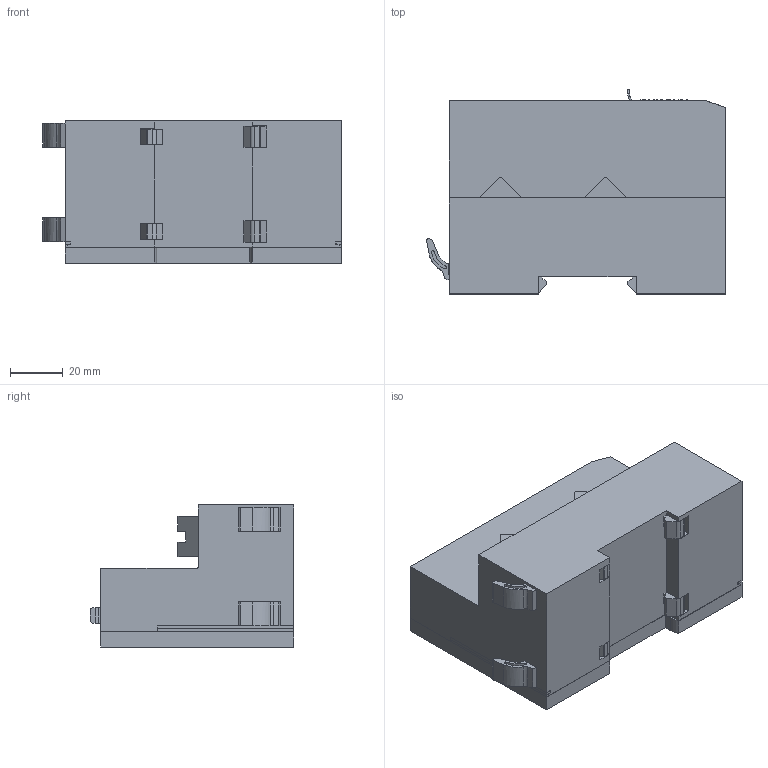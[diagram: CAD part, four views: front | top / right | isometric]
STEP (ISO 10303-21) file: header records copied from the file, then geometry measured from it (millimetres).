
FILE_DESCRIPTION(('CATIA V5 STEP Exchange','CAx-IF Rec.Pracs.--- Model Styling and Organization---1.5--- 2016-08-15','CAx-IF Rec.Pracs.---Supplemental Geometry---1.0---2011-11-01','CAx-IF Rec.Pracs.--- Composite Materials ---1.1---2010-07-15'),'2;1');
FILE_NAME('C:\Users\wcn0252\Weidmueller Interface GmbH & Co. KG\Division Support - Documents\APS\QL20\QL20-IO_Coupler.stp','2025-05-29T05:13:35+00:00',('none'),('none'),'CATIA Version 5-6 Release 2022 SP4 HF5','CATIA V5 STEP AP214 v3','none');
FILE_SCHEMA(('AUTOMOTIVE_DESIGN { 1 0 10303 214 1 1 1 1 }'));
Length unit declared in the file: millimetre
Products named in the file (1): Coupler
Bounding box: 113.58 x 77.55 x 54 mm (x, y, z)
Volume: 310870 mm3; surface area: 54121.7 mm2
Topology: 2 solids, 2 shells, 421 faces, 1224 edges, 820 vertices
Faces by surface type: plane 314, cylinder 105, extrusion 2
Entity records: 13501 total; most frequent: CARTESIAN_POINT 2586, ORIENTED_EDGE 2448, DIRECTION 1810, EDGE_CURVE 1224, VECTOR 980, LINE 978, VERTEX_POINT 820, AXIS2_PLACEMENT_3D 502
